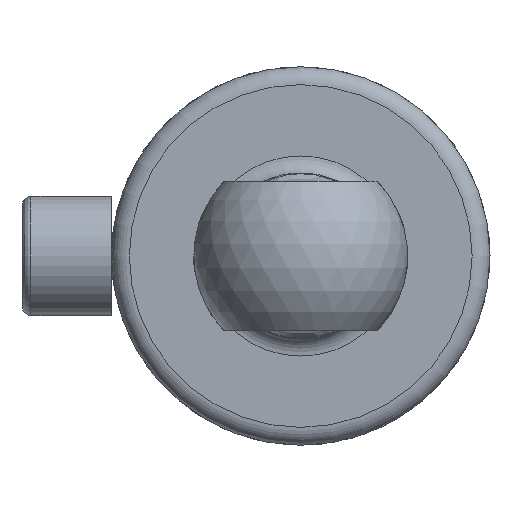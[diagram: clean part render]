
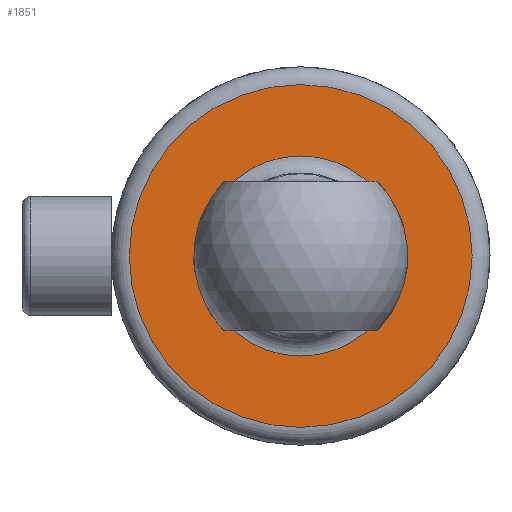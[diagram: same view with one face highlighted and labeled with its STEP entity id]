
A CAD part, left-side view. The second image highlights one B-rep face of the part: STEP entity #1851.
In plain terms, the highlighted planar face has unit normal (-1, 0, 0).
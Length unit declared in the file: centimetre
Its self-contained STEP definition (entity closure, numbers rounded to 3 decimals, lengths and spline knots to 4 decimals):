
#390=PLANE('',#2089);
#543=CIRCLE('',#2086,1.6787);
#545=CIRCLE('',#2090,2.875);
#689=VERTEX_POINT('',#3536);
#690=VERTEX_POINT('',#3541);
#854=EDGE_CURVE('',#689,#689,#543,.T.);
#857=EDGE_CURVE('',#690,#690,#545,.T.);
#1142=ORIENTED_EDGE('',*,*,#857,.F.);
#1143=ORIENTED_EDGE('',*,*,#854,.F.);
#1449=EDGE_LOOP('',(#1142));
#1450=EDGE_LOOP('',(#1143));
#1707=FACE_BOUND('',#1449,.T.);
#1708=FACE_BOUND('',#1450,.T.);
#1851=ADVANCED_FACE('',(#1707,#1708),#390,.T.);
#2086=AXIS2_PLACEMENT_3D('',#3535,#2539,#2540);
#2089=AXIS2_PLACEMENT_3D('',#3539,#2545,$);
#2090=AXIS2_PLACEMENT_3D('',#3540,#2546,#2547);
#2539=DIRECTION('',(-1.,0.,0.));
#2540=DIRECTION('',(0.,-1.679,0.));
#2545=DIRECTION('',(-1.,0.,0.));
#2546=DIRECTION('',(1.,0.,0.));
#2547=DIRECTION('',(0.,-2.875,0.));
#3535=CARTESIAN_POINT('',(0.,0.,0.));
#3536=CARTESIAN_POINT('',(0.,1.6787,0.));
#3539=CARTESIAN_POINT('',(0.,1.5875,0.));
#3540=CARTESIAN_POINT('',(0.,0.,0.));
#3541=CARTESIAN_POINT('',(0.,2.875,0.));
